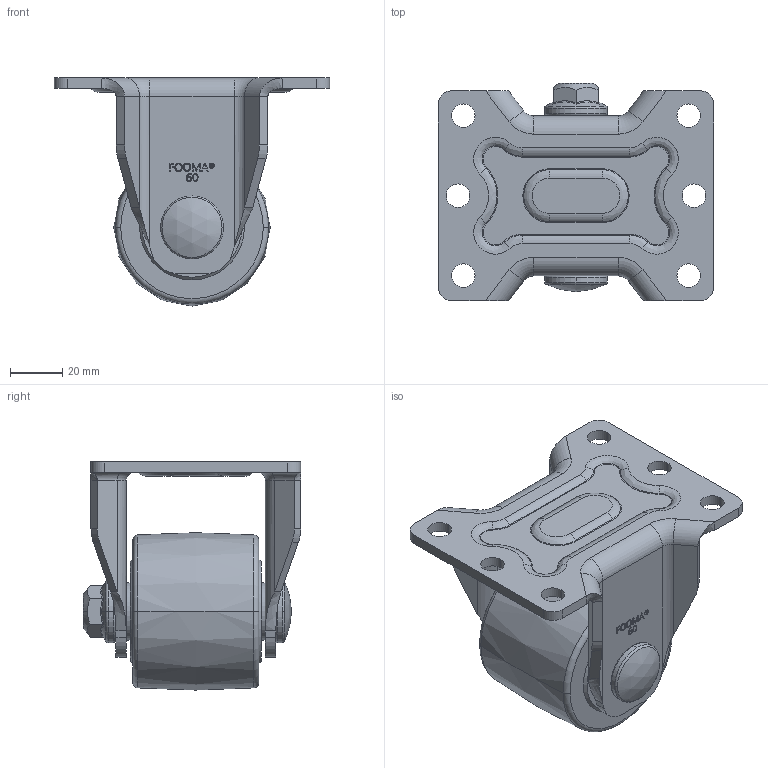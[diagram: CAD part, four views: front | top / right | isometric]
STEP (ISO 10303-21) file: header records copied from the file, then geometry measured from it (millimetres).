
FILE_DESCRIPTION((''),'2;1');
FILE_NAME('JS-60-ARF.stp','2013-04-29T14:38:29',(''),(''),'Mechanical Desktop 2009','Mechanical Desktop 2009',', , ');
FILE_SCHEMA(('CONFIG_CONTROL_DESIGN'));
Length unit declared in the file: millimetre
Products named in the file (2): JS-60-ARFA; JS-60-ARF
Assembly tree (1 placements, depth 2):
  JS-60-ARFA
    JS-60-ARF
Bounding box: 105 x 83.08 x 87 mm (x, y, z)
Volume: 198405.4 mm3; surface area: 45184.9 mm2
Topology: 1 solids, 1 shells, 1186 faces, 3346 edges, 2200 vertices
Faces by surface type: plane 1011, bspline 74, cylinder 72, torus 20, cone 8, sphere 1
Entity records: 44566 total; most frequent: CARTESIAN_POINT 13971, ORIENTED_EDGE 6684, DIRECTION 5742, EDGE_CURVE 3342, VECTOR 2982, LINE 2982, VERTEX_POINT 2200, AXIS2_PLACEMENT_3D 1380
